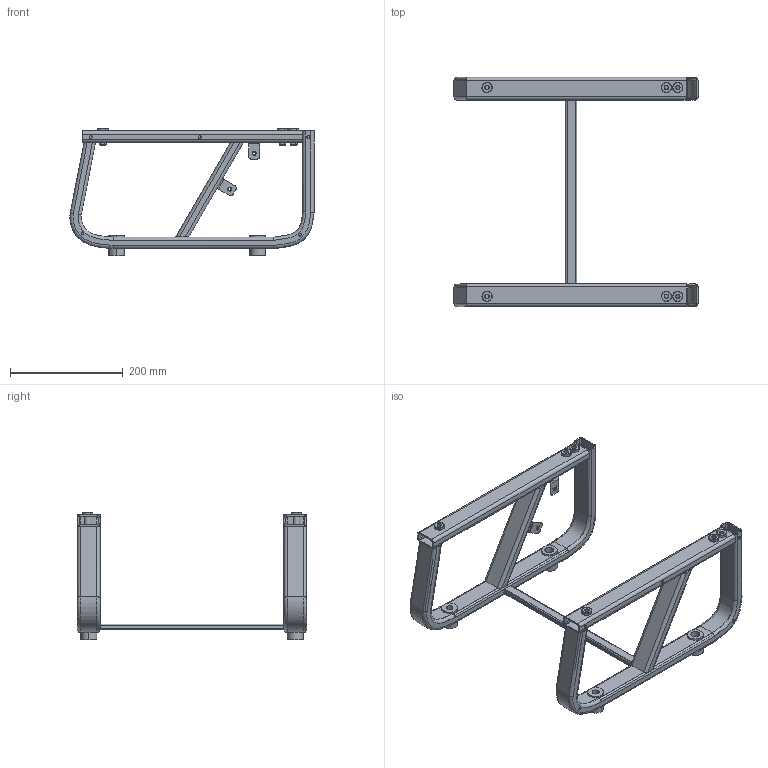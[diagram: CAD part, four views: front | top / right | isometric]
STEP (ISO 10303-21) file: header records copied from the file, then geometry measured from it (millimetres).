
FILE_DESCRIPTION(('CATIA V5 STEP Exchange'),'2;1');
FILE_NAME('C:\Users\wangyangguang\Desktop\奥杰轴套20220512\奥杰轴套\SBS0010136-主驾支腿焊接总成\SBS0010136.stp','2022-05-18T08:06:52+00:00',('none'),('none'),'CATIA Version 5 Release 20 GA (IN-10)','CATIA V5 STEP AP203','none');
FILE_SCHEMA(('CONFIG_CONTROL_DESIGN'));
Products named in the file (1): SBS0010136
Bounding box: 432.56 x 406 x 226.4 mm (x, y, z)
Volume: 764450.9 mm3; surface area: 615083.5 mm2
Topology: 21 solids, 21 shells, 648 faces, 1662 edges, 1059 vertices
Faces by surface type: cylinder 282, plane 158, cone 88, torus 72, bspline 48
Entity records: 51453 total; most frequent: CARTESIAN_POINT 36781, ORIENTED_EDGE 3324, DIRECTION 2346, EDGE_CURVE 1662, AXIS2_PLACEMENT_3D 1132, VERTEX_POINT 1056, EDGE_LOOP 744, ADVANCED_FACE 648
